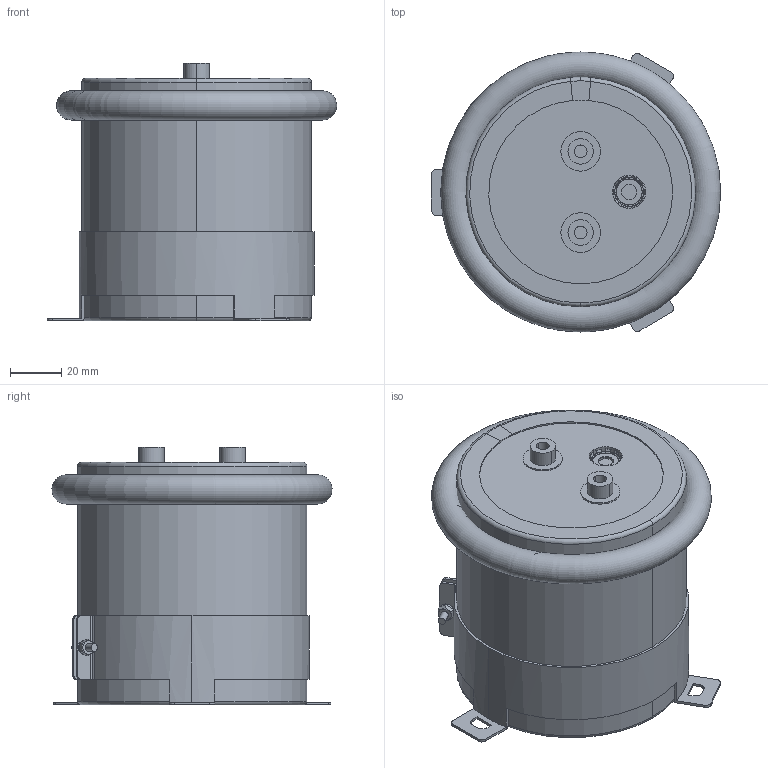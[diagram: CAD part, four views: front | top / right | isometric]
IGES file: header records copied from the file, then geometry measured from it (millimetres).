
Start section: 3D InterOp IGES (v. 2019 1.0.2), Spatial Corp. Copyright (c) 1999-2017.
Global section: file name: 90x95_Screw.igs; native system: Spatial Corp.; preprocessor: 3D InterOp ACIS/IGES; author: Noname; organization: Noname; date: 20220314.144120; units: millimetre
Bounding box: 113.34 x 109.69 x 101 mm (x, y, z)
Volume: 949051.5 mm3; surface area: 260946.3 mm2
Topology: 9 solids, 9 shells, 352 faces, 953 edges, 591 vertices
Faces by surface type: plane 112, cylinder 110, torus 90, cone 38, sphere 2
